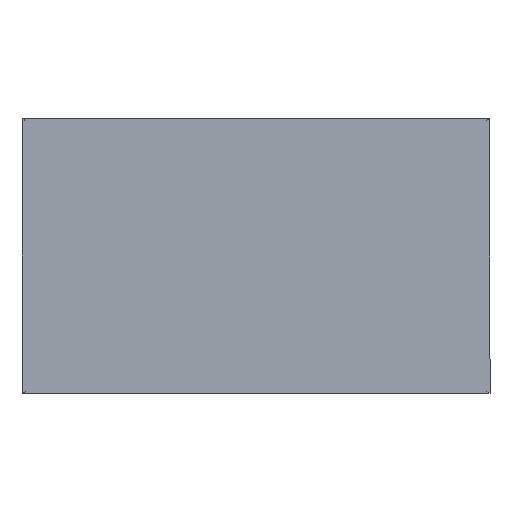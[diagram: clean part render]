
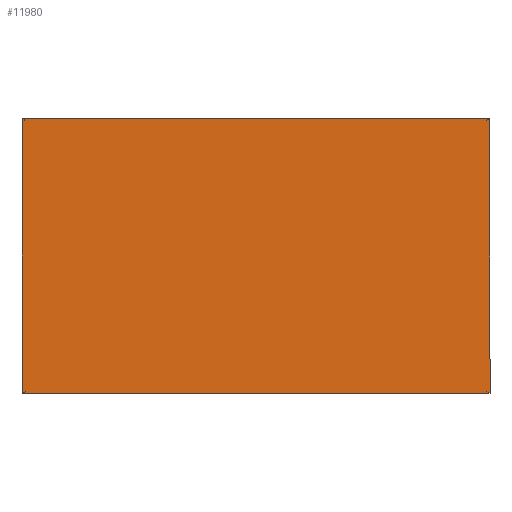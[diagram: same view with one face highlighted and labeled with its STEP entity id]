
A CAD part, top view. The second image highlights one B-rep face of the part: STEP entity #11980.
In plain terms, the highlighted planar face has unit normal (0, 0, 1) as drawn and (0, 0, -1) by its records, which use the part's own axes.
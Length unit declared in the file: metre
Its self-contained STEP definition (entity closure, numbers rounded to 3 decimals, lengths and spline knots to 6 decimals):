
#2430=ORIENTED_EDGE('',*,*,#5321,.F.);
#2431=ORIENTED_EDGE('',*,*,#5322,.T.);
#2432=ORIENTED_EDGE('',*,*,#5319,.T.);
#2433=ORIENTED_EDGE('',*,*,#5317,.F.);
#5317=EDGE_CURVE('',#6853,#6852,#7953,.T.);
#5319=EDGE_CURVE('',#6854,#6852,#7955,.T.);
#5321=EDGE_CURVE('',#6855,#6853,#7957,.T.);
#5322=EDGE_CURVE('',#6855,#6854,#7958,.T.);
#6852=VERTEX_POINT('',#19186);
#6853=VERTEX_POINT('',#19188);
#6854=VERTEX_POINT('',#19192);
#6855=VERTEX_POINT('',#19196);
#7953=LINE('',#19189,#8953);
#7955=LINE('',#19193,#8955);
#7957=LINE('',#19197,#8957);
#7958=LINE('',#19199,#8958);
#8953=VECTOR('',#15186,1.);
#8955=VECTOR('',#15190,1.);
#8957=VECTOR('',#15194,1.);
#8958=VECTOR('',#15197,1.);
#9932=EDGE_LOOP('',(#2430,#2431,#2432,#2433));
#10826=FACE_BOUND('',#9932,.T.);
#11521=PLANE('',#13030);
#11980=ADVANCED_FACE('',(#10826),#11521,.T.);
#13030=AXIS2_PLACEMENT_3D('',#19198,#15195,#15196);
#15186=DIRECTION('',(0.,1.,0.));
#15190=DIRECTION('',(1.,0.,0.));
#15194=DIRECTION('',(1.,0.,0.));
#15195=DIRECTION('',(0.,0.,-1.));
#15196=DIRECTION('',(0.,1.,0.));
#15197=DIRECTION('',(0.,1.,0.));
#19186=CARTESIAN_POINT('',(0.028563,0.016782,-0.03475));
#19188=CARTESIAN_POINT('',(0.028563,-0.016782,-0.03475));
#19189=CARTESIAN_POINT('',(0.028563,-0.008391,-0.03475));
#19192=CARTESIAN_POINT('',(-0.028563,0.016782,-0.03475));
#19193=CARTESIAN_POINT('',(-0.028565,0.016782,-0.03475));
#19196=CARTESIAN_POINT('',(-0.028563,-0.016782,-0.03475));
#19197=CARTESIAN_POINT('',(-0.028565,-0.016782,-0.03475));
#19198=CARTESIAN_POINT('',(-0.028565,-0.008391,-0.03475));
#19199=CARTESIAN_POINT('',(-0.028563,-0.008391,-0.03475));
